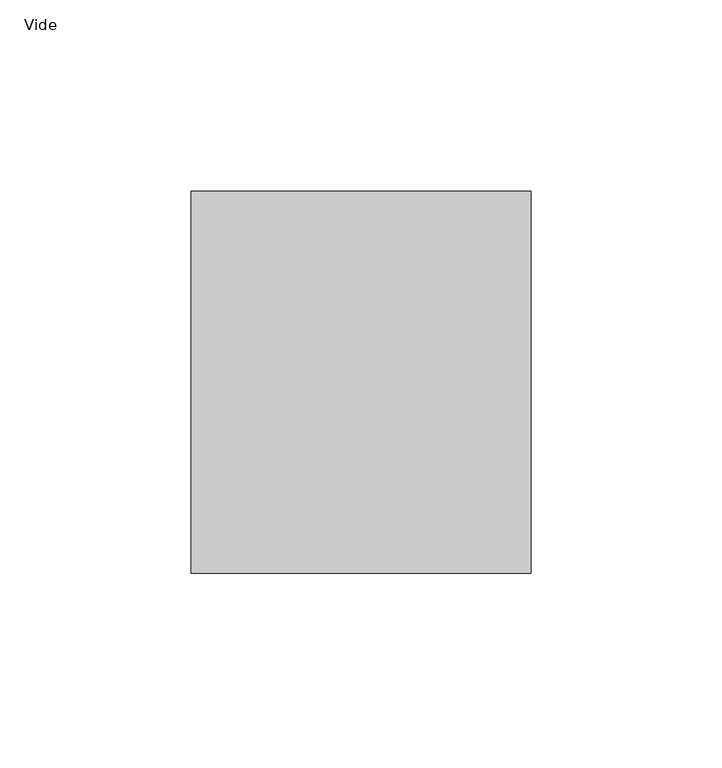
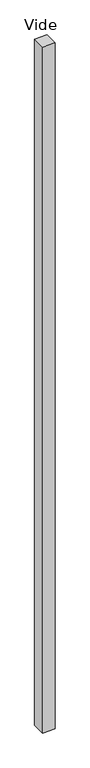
"""IFC4 building model written with IfcOpenShell, lengths in millimetres: plate geometry, Panneau système vide : Vide."""

from ifc_helpers import new_model, si_unit, origin, origin_with_axes, place, context, project, spatial, polyline, outline, extrude, source, transform, mapped, element, save


def vide_f7097931(model_context):
    return source(origin(), model_context, "Body", "SweptSolid", [
        extrude(outline(polyline([(44.5, 50.0), (-44.5, 50.0), (-44.5, 150.0), (44.5, 150.0), (44.5, 50.0)])), origin_with_axes(), (0.0, 0.0, 1.0), 5176.3809021),
    ])


if __name__ == "__main__":
    model = new_model("IFC4")
    model_context = context("Model", 3, world=origin())
    ifc_project = project(units=[si_unit("LENGTHUNIT", "METRE", prefix="MILLI")], contexts=[model_context])
    site = spatial("IfcSite", under=ifc_project)
    building = spatial("IfcBuilding", under=site)
    placement = place(None, origin())
    vide_shape = vide_f7097931(model_context)
    element("IfcPlate", 1, ObjectType="Panneau système vide : Vide", at=placement, inside=building, context=model_context, shape_type="MappedRepresentation", body=[
        mapped(vide_shape, transform((0.0, 0.0, 0.0), x_axis=(1.0, 0.0, 0.0), y_axis=(0.0, 1.0, 0.0), z_axis=(0.0, 0.0, 1.0))),
    ])
    save(model, "model.ifc")
